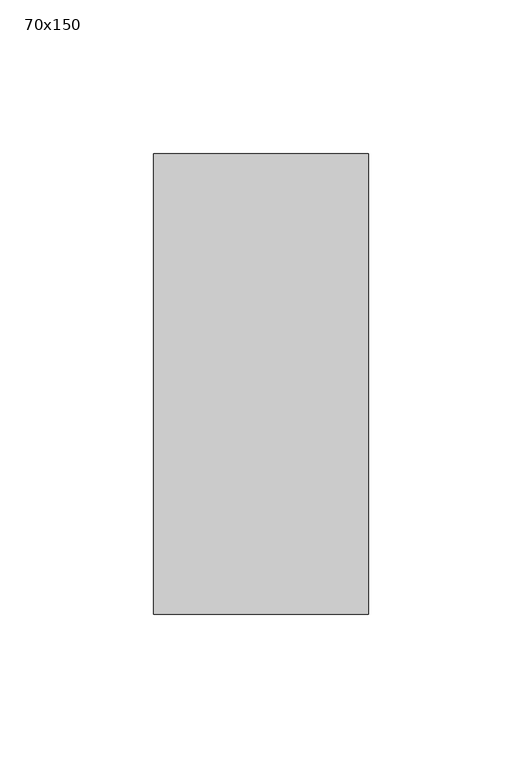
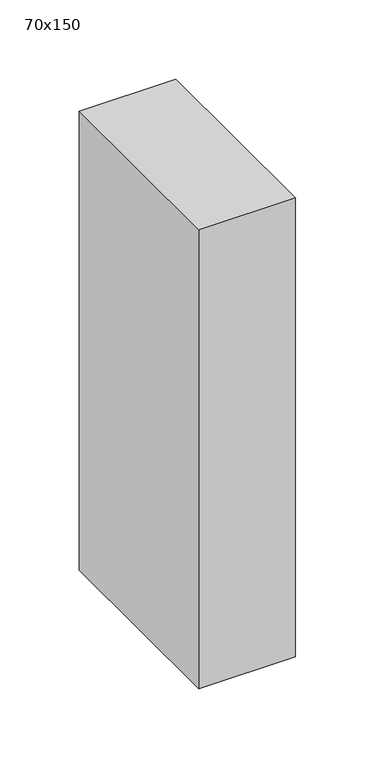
"""IFC4 building model written with IfcOpenShell, lengths in millimetres: member geometry, 長方形のマリオン : 70x150."""

from ifc_helpers import new_model, si_unit, frame, origin, place, context, project, spatial, polyline, outline, extrude, source, transform, mapped, element, save


def member_70x150_3f761639(model_context):
    return source(origin(), model_context, "Body", "SweptSolid", [
        extrude(outline(polyline([(35.0, 75.0), (35.0, -75.0), (-35.0, -75.0), (-35.0, 75.0), (35.0, 75.0)])), frame((0.0, 0.0, -352.1424229), z_axis=(0.0, 0.0, 1.0), x_axis=(1.0, 0.0, 0.0)), (0.0, 0.0, 1.0), 352.1424229),
    ])


if __name__ == "__main__":
    model = new_model("IFC4")
    model_context = context("Model", 3, world=origin())
    ifc_project = project(units=[si_unit("LENGTHUNIT", "METRE", prefix="MILLI")], contexts=[model_context])
    site = spatial("IfcSite", under=ifc_project)
    building = spatial("IfcBuilding", under=site)
    placement = place(None, origin())
    member_70x150_shape = member_70x150_3f761639(model_context)
    element("IfcMember", 1, ObjectType="長方形のマリオン : 70x150", at=placement, inside=building, context=model_context, shape_type="MappedRepresentation", body=[
        mapped(member_70x150_shape, transform((0.0, 0.0, 0.0), x_axis=(1.0, 0.0, 0.0), y_axis=(0.0, 1.0, 0.0), z_axis=(0.0, 0.0, 1.0))),
    ])
    save(model, "model.ifc")
